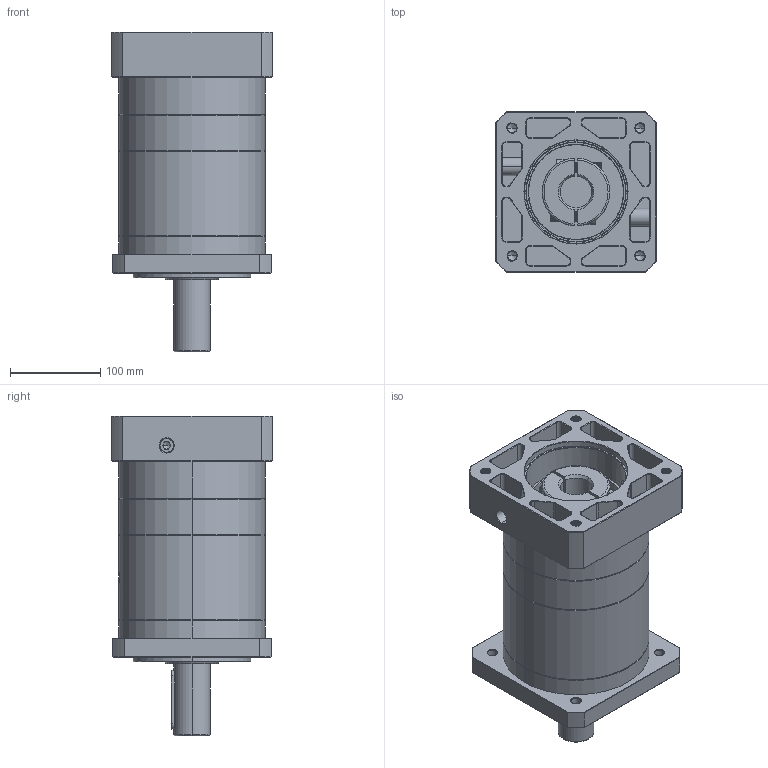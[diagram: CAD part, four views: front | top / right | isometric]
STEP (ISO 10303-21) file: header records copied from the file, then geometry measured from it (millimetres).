
FILE_DESCRIPTION (( 'STEP AP214' ), '1' );
FILE_NAME ('ZF160A-D40-L3-P2-35-114.3-200-M12.step', '2023-09-03T07:00:20', ( '' ), ( '' ), 'SwSTEP 2.0', 'SolidWorks 2016', '' );
FILE_SCHEMA (( 'AUTOMOTIVE_DESIGN' ));
Length unit declared in the file: millimetre
Products named in the file (1): ZF160A-D40-L3-P2-35-114.3-200-M12
Bounding box: 178 x 178 x 354.2 mm (x, y, z)
Volume: 5696426.8 mm3; surface area: 416111.9 mm2
Topology: 6 solids, 6 shells, 2365 faces, 6338 edges, 4086 vertices
Faces by surface type: plane 1107, cylinder 456, bspline 411, cone 369, torus 22
Entity records: 132713 total; most frequent: CARTESIAN_POINT 52594, ORIENTED_EDGE 12616, DIRECTION 9519, EDGE_CURVE 6308, VERTEX_POINT 4086, VECTOR 3345, LINE 3345, AXIS2_PLACEMENT_3D 3087
